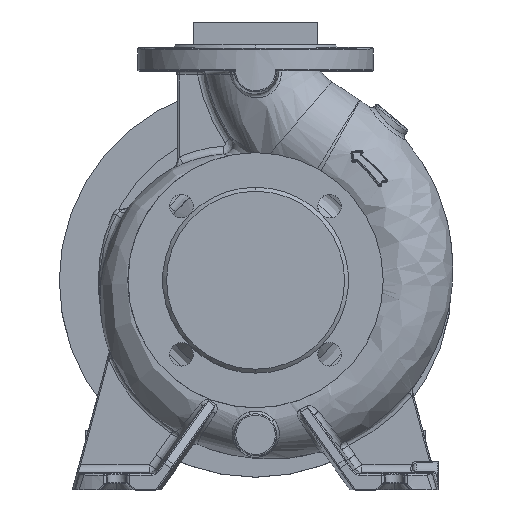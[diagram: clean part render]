
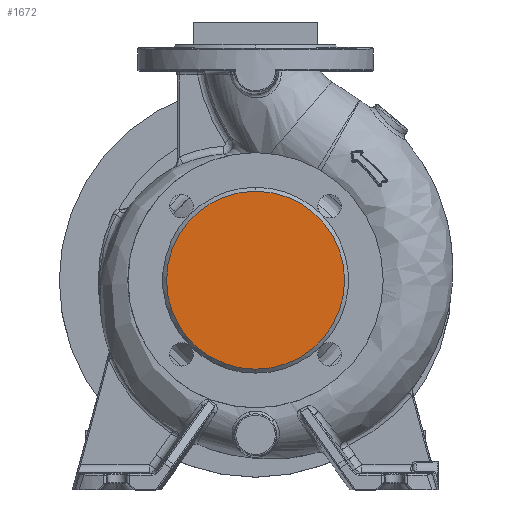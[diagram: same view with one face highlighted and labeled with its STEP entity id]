
A CAD part, top view. The second image highlights one B-rep face of the part: STEP entity #1672.
In plain terms, the highlighted planar face has unit normal (0, 0, 1).
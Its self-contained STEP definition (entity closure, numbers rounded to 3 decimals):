
#1672 = ADVANCED_FACE ( 'NONE', ( #46526 ), #56210, .F. ) ;
#5690 = CARTESIAN_POINT ( 'NONE',  ( 0., 0., 100. ) ) ;
#10264 = CARTESIAN_POINT ( 'NONE',  ( 0., -68., 100. ) ) ;
#15121 = EDGE_CURVE ( 'NONE', #44081, #25452, #42317, .T. ) ;
#15132 = CARTESIAN_POINT ( 'NONE',  ( 0., 0., 100. ) ) ;
#15862 = AXIS2_PLACEMENT_3D ( 'NONE', #5690, #37492, #55603 ) ;
#16140 = ORIENTED_EDGE ( 'NONE', *, *, #15121, .F. ) ;
#16582 = DIRECTION ( 'NONE',  ( 0., 1., 0. ) ) ;
#16822 = ORIENTED_EDGE ( 'NONE', *, *, #46465, .F. ) ;
#21558 = CARTESIAN_POINT ( 'NONE',  ( 0., 0., 100. ) ) ;
#25064 = EDGE_LOOP ( 'NONE', ( #16140, #16822 ) ) ;
#25452 = VERTEX_POINT ( 'NONE', #10264 ) ;
#27377 = CARTESIAN_POINT ( 'NONE',  ( 0., 68., 100. ) ) ;
#28049 = AXIS2_PLACEMENT_3D ( 'NONE', #15132, #51647, #29480 ) ;
#29480 = DIRECTION ( 'NONE',  ( 0., 1., 0. ) ) ;
#35527 = DIRECTION ( 'NONE',  ( 0., 0., -1. ) ) ;
#37492 = DIRECTION ( 'NONE',  ( 0., 0., -1. ) ) ;
#42317 = CIRCLE ( 'NONE', #59213, 68. ) ;
#43719 = CIRCLE ( 'NONE', #15862, 68. ) ;
#44081 = VERTEX_POINT ( 'NONE', #27377 ) ;
#46465 = EDGE_CURVE ( 'NONE', #25452, #44081, #43719, .T. ) ;
#46526 = FACE_OUTER_BOUND ( 'NONE', #25064, .T. ) ;
#51647 = DIRECTION ( 'NONE',  ( 0., 0., -1. ) ) ;
#55603 = DIRECTION ( 'NONE',  ( 0., 1., 0. ) ) ;
#56210 = PLANE ( 'NONE',  #28049 ) ;
#59213 = AXIS2_PLACEMENT_3D ( 'NONE', #21558, #35527, #16582 ) ;
